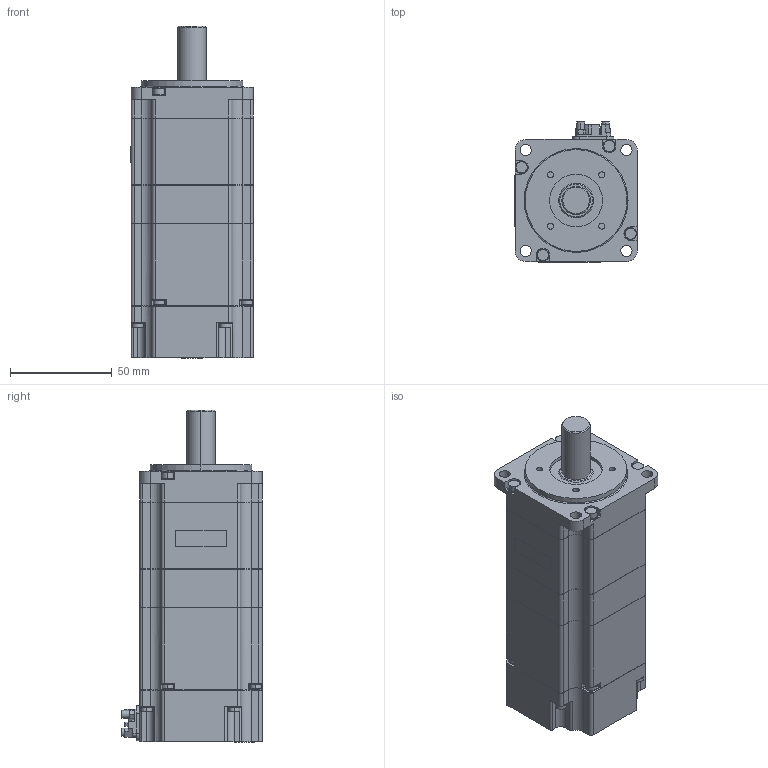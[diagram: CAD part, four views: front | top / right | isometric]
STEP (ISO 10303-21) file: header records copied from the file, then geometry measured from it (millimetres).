
FILE_DESCRIPTION (( 'STEP AP214' ), '1' );
FILE_NAME ('sgmxj_04awa2ca_.STEP', '2021-07-13T01:03:16', ( '' ), ( '' ), 'SwSTEP 2.0', 'SolidWorks 2016', '' );
FILE_SCHEMA (( 'AUTOMOTIVE_DESIGN' ));
Length unit declared in the file: millimetre
Products named in the file (1): sgmxj_04awa2ca_
Bounding box: 60.1 x 68.8 x 163.1 mm (x, y, z)
Volume: 431354.5 mm3; surface area: 43172 mm2
Topology: 1 solids, 1 shells, 519 faces, 1374 edges, 912 vertices
Faces by surface type: plane 296, cylinder 217, cone 4, torus 2
Entity records: 21927 total; most frequent: DIRECTION 2870, CARTESIAN_POINT 2806, ORIENTED_EDGE 2748, EDGE_CURVE 1374, AXIS2_PLACEMENT_3D 976, LINE 918, VECTOR 918, VERTEX_POINT 912
